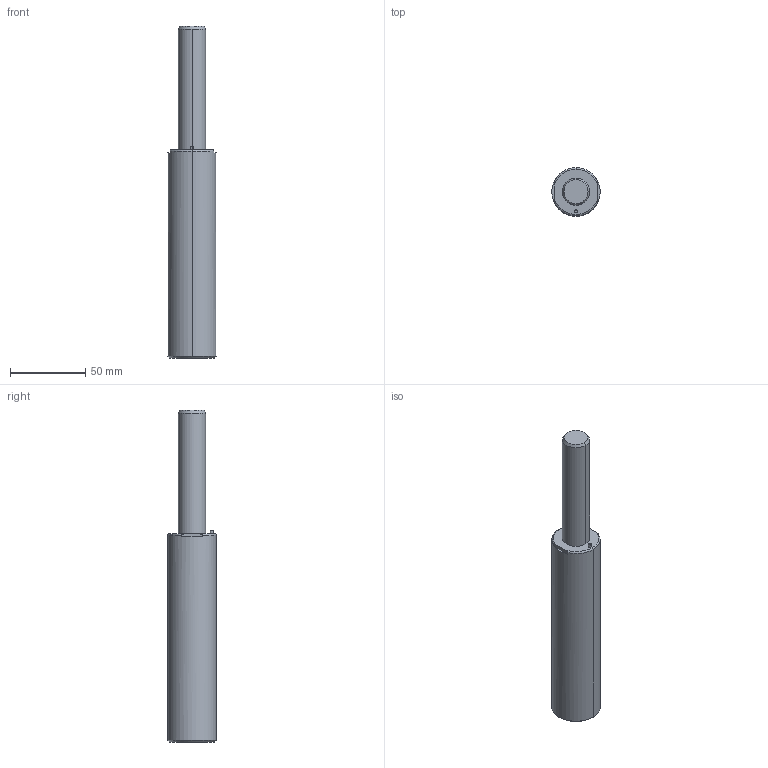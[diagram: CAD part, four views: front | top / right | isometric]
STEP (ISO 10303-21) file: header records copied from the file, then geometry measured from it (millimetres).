
FILE_DESCRIPTION(/* description */ (''),/* implementation_level */ '2;1');
FILE_NAME(/* name */ '3d_gsx32-80_03969_r00.stp',/* time_stamp */ '2011-01-10T14:15:13+09:00',/* author */ ('MISUMI'),/* organization */ (''),/* preprocessor_version */ 'ST-DEVELOPER v11',/* originating_system */ 'UGS - NX 5.0',/* authorisation */ '');
FILE_SCHEMA (('CONFIG_CONTROL_DESIGN'));
Length unit declared in the file: millimetre
Products named in the file (1): 3d_gsx32-80_03969_r00
Bounding box: 32 x 32 x 220 mm (x, y, z)
Volume: 130412.4 mm3; surface area: 20872.7 mm2
Topology: 1 solids, 1 shells, 45 faces, 98 edges, 60 vertices
Faces by surface type: cylinder 20, plane 13, cone 8, torus 4
Entity records: 1324 total; most frequent: DIRECTION 236, CARTESIAN_POINT 228, ORIENTED_EDGE 188, AXIS2_PLACEMENT_3D 100, EDGE_CURVE 94, VERTEX_POINT 60, EDGE_LOOP 54, CIRCLE 54
